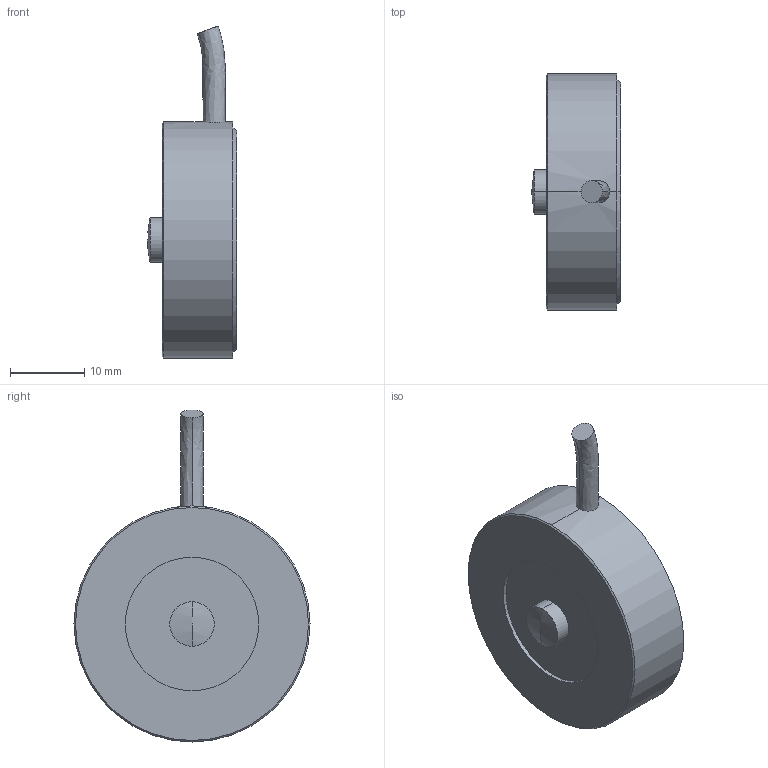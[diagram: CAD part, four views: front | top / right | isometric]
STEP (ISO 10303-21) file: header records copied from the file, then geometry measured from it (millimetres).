
FILE_DESCRIPTION((''),'2;1');
FILE_NAME('WXT','2022-03-02T',('hzcgq'),(''),'PRO/ENGINEER BY PARAMETRIC TECHNOLOGY CORPORATION, 2015070','PRO/ENGINEER BY PARAMETRIC TECHNOLOGY CORPORATION, 2015070','');
FILE_SCHEMA(('CONFIG_CONTROL_DESIGN'));
Length unit declared in the file: millimetre
Products named in the file (1): WXT
Bounding box: 12 x 31.8 x 44.73 mm (x, y, z)
Volume: 7765.7 mm3; surface area: 2874.4 mm2
Topology: 1 solids, 1 shells, 82 faces, 216 edges, 135 vertices
Faces by surface type: cylinder 47, bspline 14, cone 10, plane 9, sphere 2
Entity records: 5786 total; most frequent: CARTESIAN_POINT 3978, ORIENTED_EDGE 416, DIRECTION 279, EDGE_CURVE 208, VERTEX_POINT 135, AXIS2_PLACEMENT_3D 103, B_SPLINE_CURVE_WITH_KNOTS 100, EDGE_LOOP 89
